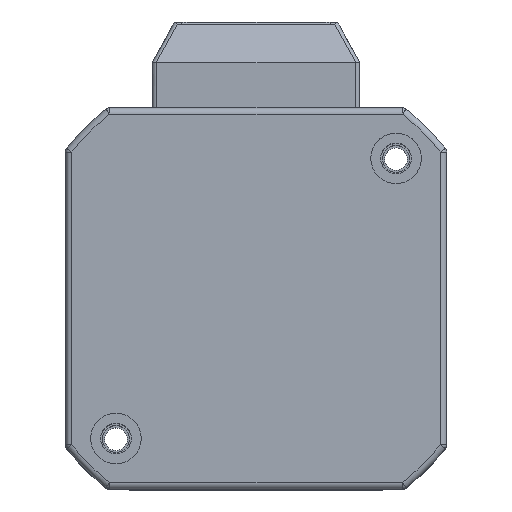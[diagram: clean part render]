
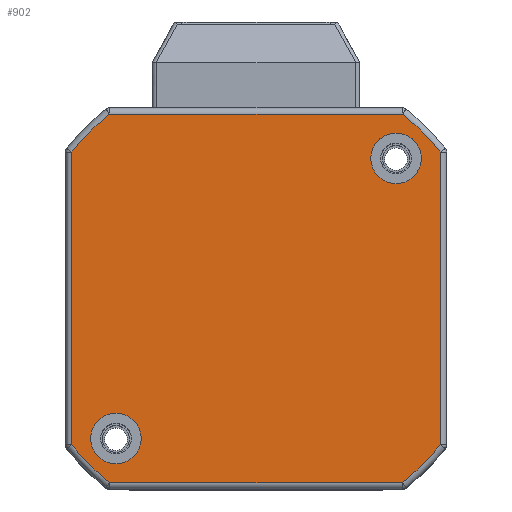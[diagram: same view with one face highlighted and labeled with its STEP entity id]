
A CAD part, top view. The second image highlights one B-rep face of the part: STEP entity #902.
In plain terms, the highlighted planar face has unit normal (0, 0, 1) as drawn and (0, 0, -1) by its records, which use the part's own axes.
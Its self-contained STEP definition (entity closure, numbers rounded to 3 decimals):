
#44 = CIRCLE ( 'NONE', #24039, 2.8 ) ;
#227 = EDGE_CURVE ( 'NONE', #31129, #562, #14303, .T. ) ;
#560 = DIRECTION ( 'NONE',  ( 1., 0., 0. ) ) ;
#562 = VERTEX_POINT ( 'NONE', #25636 ) ;
#902 = ADVANCED_FACE ( 'NONE', ( #14212, #23966, #17079 ), #11807, .F. ) ;
#1481 = CARTESIAN_POINT ( 'NONE',  ( 15.5, -15.5, 0. ) ) ;
#1653 = ORIENTED_EDGE ( 'NONE', *, *, #19667, .F. ) ;
#2627 = ORIENTED_EDGE ( 'NONE', *, *, #24246, .F. ) ;
#3098 = DIRECTION ( 'NONE',  ( 0., 0., -1. ) ) ;
#3477 = CARTESIAN_POINT ( 'NONE',  ( -18.3, 15.5, 0. ) ) ;
#3673 = AXIS2_PLACEMENT_3D ( 'NONE', #13044, #3098, #560 ) ;
#4417 = CARTESIAN_POINT ( 'NONE',  ( 20.4, 16.2, 0. ) ) ;
#4440 = DIRECTION ( 'NONE',  ( 0., 0., 1. ) ) ;
#4549 = CIRCLE ( 'NONE', #8147, 2.8 ) ;
#4618 = CARTESIAN_POINT ( 'NONE',  ( 0., 0., 0. ) ) ;
#4677 = AXIS2_PLACEMENT_3D ( 'NONE', #18200, #6671, #25399 ) ;
#4703 = AXIS2_PLACEMENT_3D ( 'NONE', #30298, #5822, #10944 ) ;
#4990 = DIRECTION ( 'NONE',  ( 1., 0., 0. ) ) ;
#5822 = DIRECTION ( 'NONE',  ( 0., 0., -1. ) ) ;
#6291 = VECTOR ( 'NONE', #26345, 1000. ) ;
#6647 = CARTESIAN_POINT ( 'NONE',  ( 20.4, -16.442, 0. ) ) ;
#6671 = DIRECTION ( 'NONE',  ( 0., 0., -1. ) ) ;
#6842 = VERTEX_POINT ( 'NONE', #24963 ) ;
#6888 = VERTEX_POINT ( 'NONE', #19845 ) ;
#6939 = ORIENTED_EDGE ( 'NONE', *, *, #26907, .T. ) ;
#7636 = DIRECTION ( 'NONE',  ( 0., 0., -1. ) ) ;
#7757 = AXIS2_PLACEMENT_3D ( 'NONE', #21720, #4440, #14522 ) ;
#7923 = ORIENTED_EDGE ( 'NONE', *, *, #227, .T. ) ;
#8001 = VERTEX_POINT ( 'NONE', #14272 ) ;
#8147 = AXIS2_PLACEMENT_3D ( 'NONE', #28236, #14170, #23445 ) ;
#8834 = DIRECTION ( 'NONE',  ( -1., 0., 0. ) ) ;
#9222 = VERTEX_POINT ( 'NONE', #14032 ) ;
#9423 = VERTEX_POINT ( 'NONE', #24897 ) ;
#9640 = EDGE_CURVE ( 'NONE', #12758, #6842, #10797, .T. ) ;
#9817 = CIRCLE ( 'NONE', #4677, 26.05 ) ;
#10658 = EDGE_CURVE ( 'NONE', #9222, #12791, #19930, .T. ) ;
#10773 = DIRECTION ( 'NONE',  ( 0., 0., -1. ) ) ;
#10797 = LINE ( 'NONE', #6647, #21192 ) ;
#10924 = ORIENTED_EDGE ( 'NONE', *, *, #22110, .T. ) ;
#10944 = DIRECTION ( 'NONE',  ( -1., 0., 0. ) ) ;
#11237 = DIRECTION ( 'NONE',  ( 0., 0., -1. ) ) ;
#11745 = DIRECTION ( 'NONE',  ( 1., 0., 0. ) ) ;
#11807 = PLANE ( 'NONE',  #7757 ) ;
#11957 = EDGE_CURVE ( 'NONE', #8001, #26706, #4549, .T. ) ;
#12042 = ORIENTED_EDGE ( 'NONE', *, *, #11957, .F. ) ;
#12758 = VERTEX_POINT ( 'NONE', #4417 ) ;
#12791 = VERTEX_POINT ( 'NONE', #19604 ) ;
#13044 = CARTESIAN_POINT ( 'NONE',  ( 0., 0., 0. ) ) ;
#13195 = ORIENTED_EDGE ( 'NONE', *, *, #27991, .T. ) ;
#13321 = VERTEX_POINT ( 'NONE', #13470 ) ;
#13470 = CARTESIAN_POINT ( 'NONE',  ( 18.3, -15.5, 0. ) ) ;
#13633 = EDGE_LOOP ( 'NONE', ( #2627, #12042 ) ) ;
#14032 = CARTESIAN_POINT ( 'NONE',  ( -20.4, -16.2, 0. ) ) ;
#14170 = DIRECTION ( 'NONE',  ( 0., 0., -1. ) ) ;
#14212 = FACE_OUTER_BOUND ( 'NONE', #24004, .T. ) ;
#14272 = CARTESIAN_POINT ( 'NONE',  ( -12.7, 15.5, 0. ) ) ;
#14303 = LINE ( 'NONE', #31568, #29654 ) ;
#14522 = DIRECTION ( 'NONE',  ( 1., 0., 0. ) ) ;
#14874 = AXIS2_PLACEMENT_3D ( 'NONE', #30287, #10773, #27894 ) ;
#15278 = ORIENTED_EDGE ( 'NONE', *, *, #10658, .T. ) ;
#15562 = VERTEX_POINT ( 'NONE', #24384 ) ;
#15609 = CIRCLE ( 'NONE', #27852, 26.05 ) ;
#16643 = AXIS2_PLACEMENT_3D ( 'NONE', #22770, #7636, #24572 ) ;
#17007 = ORIENTED_EDGE ( 'NONE', *, *, #9640, .T. ) ;
#17079 = FACE_BOUND ( 'NONE', #22604, .T. ) ;
#17854 = DIRECTION ( 'NONE',  ( 0., 1., 0. ) ) ;
#18200 = CARTESIAN_POINT ( 'NONE',  ( 0., 0., 0. ) ) ;
#18801 = ORIENTED_EDGE ( 'NONE', *, *, #23970, .T. ) ;
#19294 = LINE ( 'NONE', #31603, #6291 ) ;
#19604 = CARTESIAN_POINT ( 'NONE',  ( -20.4, 16.2, 0. ) ) ;
#19667 = EDGE_CURVE ( 'NONE', #13321, #9423, #44, .T. ) ;
#19759 = ORIENTED_EDGE ( 'NONE', *, *, #19844, .F. ) ;
#19844 = EDGE_CURVE ( 'NONE', #9423, #13321, #20996, .T. ) ;
#19845 = CARTESIAN_POINT ( 'NONE',  ( -16.2, -20.4, 0. ) ) ;
#19930 = LINE ( 'NONE', #22978, #28935 ) ;
#20996 = CIRCLE ( 'NONE', #14874, 2.8 ) ;
#21192 = VECTOR ( 'NONE', #28073, 1000. ) ;
#21720 = CARTESIAN_POINT ( 'NONE',  ( 0., 0., 0. ) ) ;
#21949 = CARTESIAN_POINT ( 'NONE',  ( -16.2, 20.4, 0. ) ) ;
#22110 = EDGE_CURVE ( 'NONE', #15562, #6888, #19294, .T. ) ;
#22604 = EDGE_LOOP ( 'NONE', ( #19759, #1653 ) ) ;
#22770 = CARTESIAN_POINT ( 'NONE',  ( 0., 0., 0. ) ) ;
#22978 = CARTESIAN_POINT ( 'NONE',  ( -20.4, 16.442, 0. ) ) ;
#23445 = DIRECTION ( 'NONE',  ( -1., 0., 0. ) ) ;
#23966 = FACE_BOUND ( 'NONE', #13633, .T. ) ;
#23970 = EDGE_CURVE ( 'NONE', #6888, #9222, #9817, .T. ) ;
#24004 = EDGE_LOOP ( 'NONE', ( #18801, #15278, #13195, #7923, #6939, #17007, #24705, #10924 ) ) ;
#24039 = AXIS2_PLACEMENT_3D ( 'NONE', #1481, #11237, #8834 ) ;
#24141 = EDGE_CURVE ( 'NONE', #6842, #15562, #25120, .T. ) ;
#24246 = EDGE_CURVE ( 'NONE', #26706, #8001, #29726, .T. ) ;
#24384 = CARTESIAN_POINT ( 'NONE',  ( 16.2, -20.4, 0. ) ) ;
#24572 = DIRECTION ( 'NONE',  ( 1., 0., 0. ) ) ;
#24705 = ORIENTED_EDGE ( 'NONE', *, *, #24141, .T. ) ;
#24897 = CARTESIAN_POINT ( 'NONE',  ( 12.7, -15.5, 0. ) ) ;
#24963 = CARTESIAN_POINT ( 'NONE',  ( 20.4, -16.2, 0. ) ) ;
#25120 = CIRCLE ( 'NONE', #3673, 26.05 ) ;
#25399 = DIRECTION ( 'NONE',  ( 1., 0., 0. ) ) ;
#25636 = CARTESIAN_POINT ( 'NONE',  ( 16.2, 20.4, 0. ) ) ;
#26345 = DIRECTION ( 'NONE',  ( -1., 0., 0. ) ) ;
#26547 = DIRECTION ( 'NONE',  ( 0., 0., -1. ) ) ;
#26706 = VERTEX_POINT ( 'NONE', #3477 ) ;
#26875 = CIRCLE ( 'NONE', #16643, 26.05 ) ;
#26907 = EDGE_CURVE ( 'NONE', #562, #12758, #26875, .T. ) ;
#27852 = AXIS2_PLACEMENT_3D ( 'NONE', #4618, #26547, #4990 ) ;
#27894 = DIRECTION ( 'NONE',  ( -1., 0., 0. ) ) ;
#27991 = EDGE_CURVE ( 'NONE', #12791, #31129, #15609, .T. ) ;
#28073 = DIRECTION ( 'NONE',  ( 0., -1., 0. ) ) ;
#28236 = CARTESIAN_POINT ( 'NONE',  ( -15.5, 15.5, 0. ) ) ;
#28935 = VECTOR ( 'NONE', #17854, 1000. ) ;
#29654 = VECTOR ( 'NONE', #11745, 1000. ) ;
#29726 = CIRCLE ( 'NONE', #4703, 2.8 ) ;
#30287 = CARTESIAN_POINT ( 'NONE',  ( 15.5, -15.5, 0. ) ) ;
#30298 = CARTESIAN_POINT ( 'NONE',  ( -15.5, 15.5, 0. ) ) ;
#31129 = VERTEX_POINT ( 'NONE', #21949 ) ;
#31568 = CARTESIAN_POINT ( 'NONE',  ( 16.442, 20.4, 0. ) ) ;
#31603 = CARTESIAN_POINT ( 'NONE',  ( -16.442, -20.4, 0. ) ) ;
